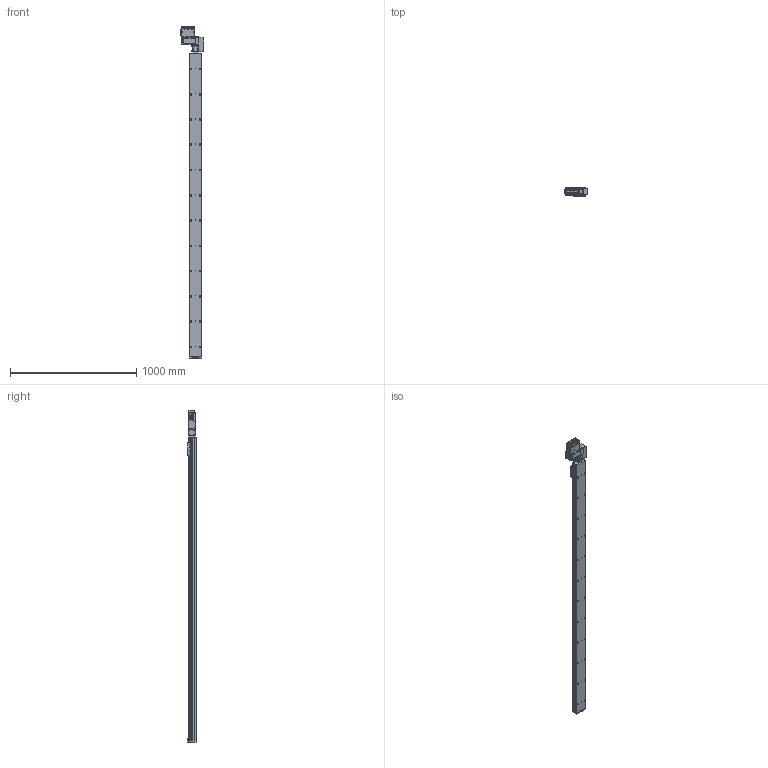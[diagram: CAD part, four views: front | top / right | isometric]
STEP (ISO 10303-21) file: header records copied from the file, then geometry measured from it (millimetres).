
FILE_DESCRIPTION (( 'STEP AP203' ), '1' );
FILE_NAME ('S10 TBN RH S2400.STEP', '2012-06-18T09:33:34', ( 'Conseil Régional Haute-Normandie' ), ( 'Conseil Régional Haute-Normandie' ), 'SwSTEP 2.0', 'SolidWorks 2010', '' );
FILE_SCHEMA (( 'CONFIG_CONTROL_DESIGN' ));
Length unit declared in the file: millimetre
Products named in the file (30): S10 TBN RH S2400; cache t皻e_Default; cache t皻e axe_Default; BU41 Carte Alimentation P05_3; Plaque racord_Default; Colonnette_3; Connecteur rond D10 3cts_5; Connecteur rond D12 4cts_5; T_X2_00F4_X0_le lat_X2_00E9_X0_rale_5; Vis TF 3 torkx_1_1; Cvis M5 L30_Default; axe 2400; embout; palette tbn; renvoi LH_Default; plaque de bout s10_Default; Assem1_7; T_X2_00F4_X0_le contre le moteur_5; BU45 Carte d''axe A11_5; Moteur 60BLDC90A_3; Couvercle_3; T_X2_00F4_X0_le fond_3; Sub D 9cts 90_X2_00B_X0__3; Radiateur profil_X2_00E9_X0_ 100x25_3; Colonnette ronde_3; T_X2_00F4_X0_le Arri_X2_00E8_X0_re_5; vis M5 L12_Default; vis M5 L5_Default; Vis M5 L16-2_Default_1; Vis TF 3 torkx
Assembly tree (69 placements, depth 3):
  S10 TBN RH S2400
    cache t皻e axe_Default
    cache t皻e_Default  x2
    palette tbn
    Plaque racord_Default
    plaque de bout s10_Default
    vis M5 L12_Default  x4
    Vis TF 3 torkx  x7
    embout
    Assem1_7
      T_X2_00F4_X0_le Arri_X2_00E8_X0_re_5
      Vis TF 3 torkx_1_1  x21
      Connecteur rond D10 3cts_5  x2
      Connecteur rond D12 4cts_5
      Colonnette ronde_3
      T_X2_00F4_X0_le fond_3
      Colonnette_3  x2
      Sub D 9cts 90_X2_00B_X0__3
      Radiateur profil_X2_00E9_X0_ 100x25_3
      T_X2_00F4_X0_le lat_X2_00E9_X0_rale_5  x2
      Moteur 60BLDC90A_3
      T_X2_00F4_X0_le contre le moteur_5
      Couvercle_3
      BU45 Carte d''axe A11_5
      BU41 Carte Alimentation P05_3
    vis M5 L5_Default  x4
    Vis M5 L16-2_Default_1  x4
    Cvis M5 L30_Default  x2
    axe 2400
    renvoi LH_Default
Bounding box: 189.8 x 66.75 x 2628.5 mm (x, y, z)
Volume: 13272902.1 mm3; surface area: 1436454.2 mm2
Topology: 68 solids, 68 shells, 2576 faces, 6385 edges, 4123 vertices
Faces by surface type: plane 1226, cylinder 1111, cone 196, bspline 40, torus 3
Entity records: 51031 total; most frequent: CARTESIAN_POINT 9121, DIRECTION 8278, ORIENTED_EDGE 7474, EDGE_CURVE 3737, AXIS2_PLACEMENT_3D 3091, VERTEX_POINT 2439, VECTOR 2096, LINE 2096
